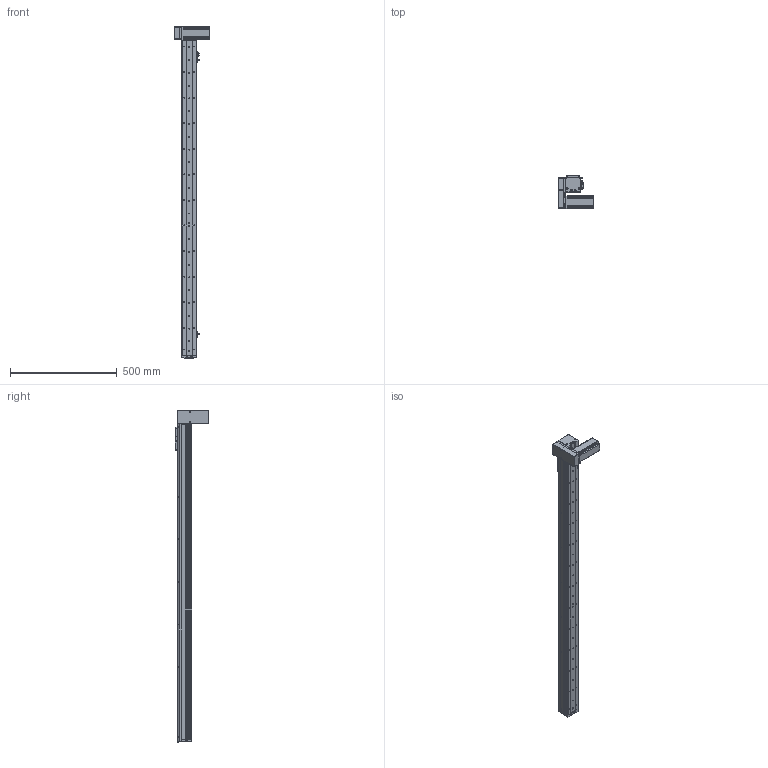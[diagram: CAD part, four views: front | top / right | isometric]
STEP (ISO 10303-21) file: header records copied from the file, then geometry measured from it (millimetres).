
FILE_DESCRIPTION (( 'STEP AP214' ), '1' );
FILE_NAME ('KSD68BS-S1300-MRD-CR.STEP', '2019-08-28T02:40:43', ( '微软用户' ), ( '微软中国' ), 'SwSTEP 2.0', 'SolidWorks 2014', '' );
FILE_SCHEMA (( 'AUTOMOTIVE_DESIGN' ));
Length unit declared in the file: millimetre
Products named in the file (14): KSD68BS 1300行程盖板全封闭; 68遵裔啣揤啣1; 68宽单导轨全封闭丝杆传动安装板1防护罩; KSD68BS 1300行程侧板全封闭; 68宽单导轨全封闭同步带端板; 68单导轨全封闭同步带电机座右; 68单导轨全封闭同步带安装板; 悵誘欶奻狟殏; 68宽马达安装板连板上折同步带; 感应片68宽全封闭; U倰嫖萇EEㄜSX672; 台达ECMA－C20604AS伺服电机（400W); KSD68BS 1300行程底板全封闭; KSD68BS-S1300-MRD-CR
Assembly tree (17 placements, depth 2):
  KSD68BS-S1300-MRD-CR
    KSD68BS 1300行程底板全封闭
    台达ECMA－C20604AS伺服电机（400W)
    U倰嫖萇EEㄜSX672  x3
    感应片68宽全封闭
    68宽马达安装板连板上折同步带
    悵誘欶奻狟殏
    68单导轨全封闭同步带安装板
    68单导轨全封闭同步带电机座右
    68宽单导轨全封闭同步带端板
    KSD68BS 1300行程侧板全封闭  x2
    68宽单导轨全封闭丝杆传动安装板1防护罩
    68遵裔啣揤啣1  x2
    KSD68BS 1300行程盖板全封闭
Bounding box: 167.2 x 155.5 x 1558.1 mm (x, y, z)
Volume: 2941111.5 mm3; surface area: 1163020.7 mm2
Topology: 18 solids, 18 shells, 1572 faces, 4505 edges, 2873 vertices
Faces by surface type: cylinder 761, plane 631, cone 180
Entity records: 50634 total; most frequent: CARTESIAN_POINT 8735, DIRECTION 7561, ORIENTED_EDGE 7230, EDGE_CURVE 3615, AXIS2_PLACEMENT_3D 2745, VERTEX_POINT 2371, VECTOR 2071, LINE 2071
